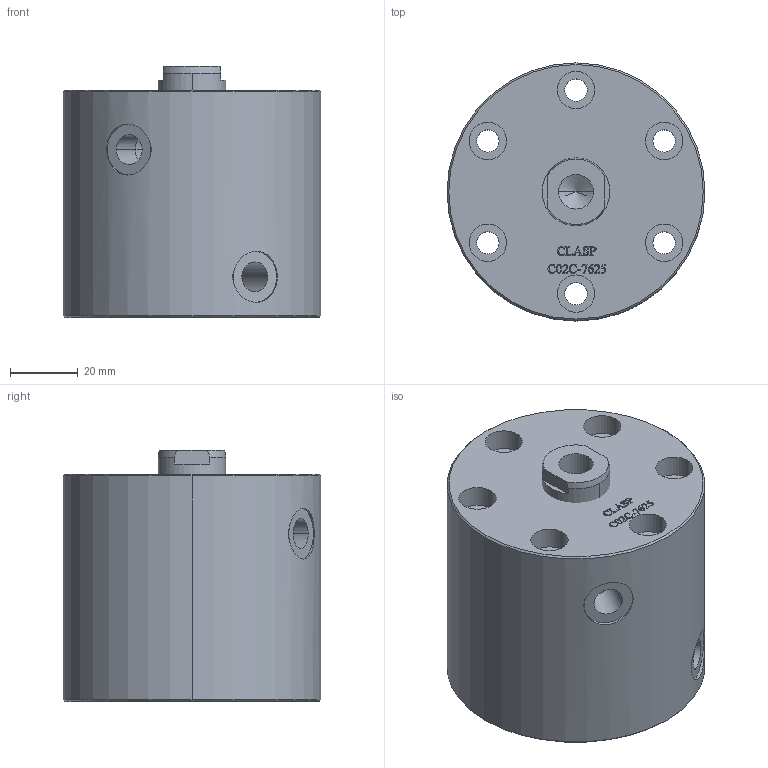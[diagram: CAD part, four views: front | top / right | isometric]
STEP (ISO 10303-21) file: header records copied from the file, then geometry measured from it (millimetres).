
FILE_DESCRIPTION (( 'STEP AP203' ), '1' );
FILE_NAME ('C02C-7625.STEP', '2022-07-09T17:51:06', ( '' ), ( '' ), 'SwSTEP 2.0', 'SolidWorks 2017', '' );
FILE_SCHEMA (( 'CONFIG_CONTROL_DESIGN' ));
Length unit declared in the file: millimetre
Products named in the file (3): C02C-7625-piston-2; C02C-7625; C02C-7625-housing-2
Assembly tree (2 placements, depth 2):
  C02C-7625
    C02C-7625-housing-2
    C02C-7625-piston-2
Bounding box: 76 x 76 x 74 mm (x, y, z)
Volume: 295551 mm3; surface area: 40091.9 mm2
Topology: 2 solids, 2 shells, 317 faces, 847 edges, 558 vertices
Faces by surface type: bspline 142, plane 122, cylinder 40, cone 13
Entity records: 16556 total; most frequent: CARTESIAN_POINT 9260, ORIENTED_EDGE 1682, DIRECTION 996, EDGE_CURVE 841, VERTEX_POINT 558, VECTOR 462, LINE 462, EDGE_LOOP 359
